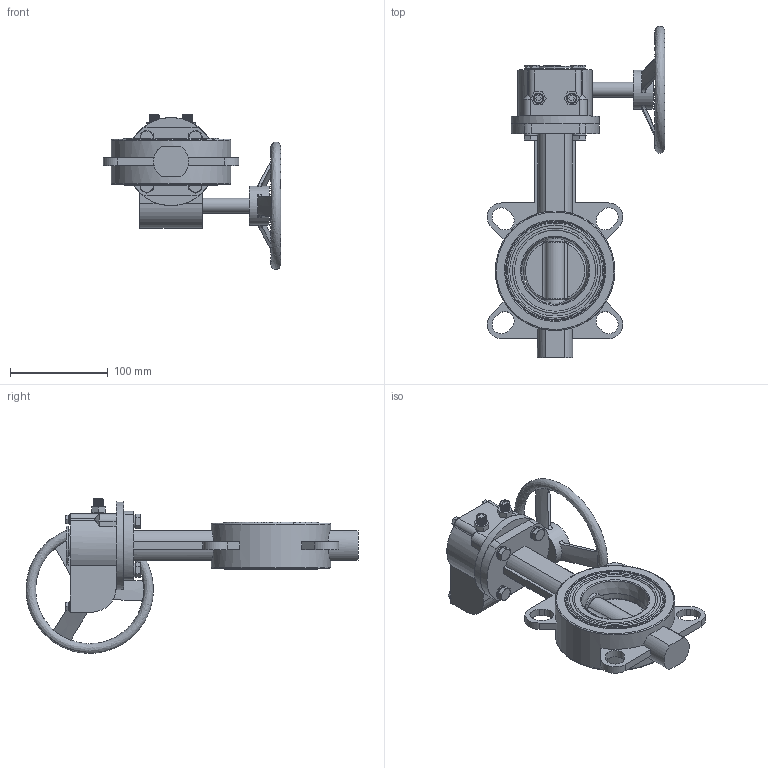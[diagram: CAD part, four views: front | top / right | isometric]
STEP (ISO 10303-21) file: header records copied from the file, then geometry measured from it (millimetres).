
FILE_DESCRIPTION (( 'STEP AP214' ), '1' );
FILE_NAME ('恦謫 勤標評概 Fig.3230-65.STEP', '2026-03-23T03:09:54', ( '' ), ( '' ), 'SwSTEP 2.0', 'SolidWorks 2024', '' );
FILE_SCHEMA (( 'AUTOMOTIVE_DESIGN' ));
Length unit declared in the file: millimetre
Products named in the file (1): 涡轮 对夹蝶阀 Fig.3230-65
Bounding box: 181.27 x 339 x 157.59 mm (x, y, z)
Surface area: 154122.5 mm2 (no closed solid volume)
Topology: 0 solids, 1 shells, 602 faces, 1541 edges, 996 vertices
Faces by surface type: plane 305, bspline 161, cylinder 94, cone 42
Full cylindrical faces by diameter (mm): 6 x4, 8 x4, 8.68 x4, 10 x10, 13.68 x4, 15 x1, 20 x1, 40 x2, 50 x1, 90 x1, 122 x1
Entity records: 45864 total; most frequent: CARTESIAN_POINT 26232, ORIENTED_EDGE 2912, DIRECTION 2167, EDGE_CURVE 1467, VERTEX_POINT 972, EDGE_LOOP 737, LINE 727, VECTOR 727
